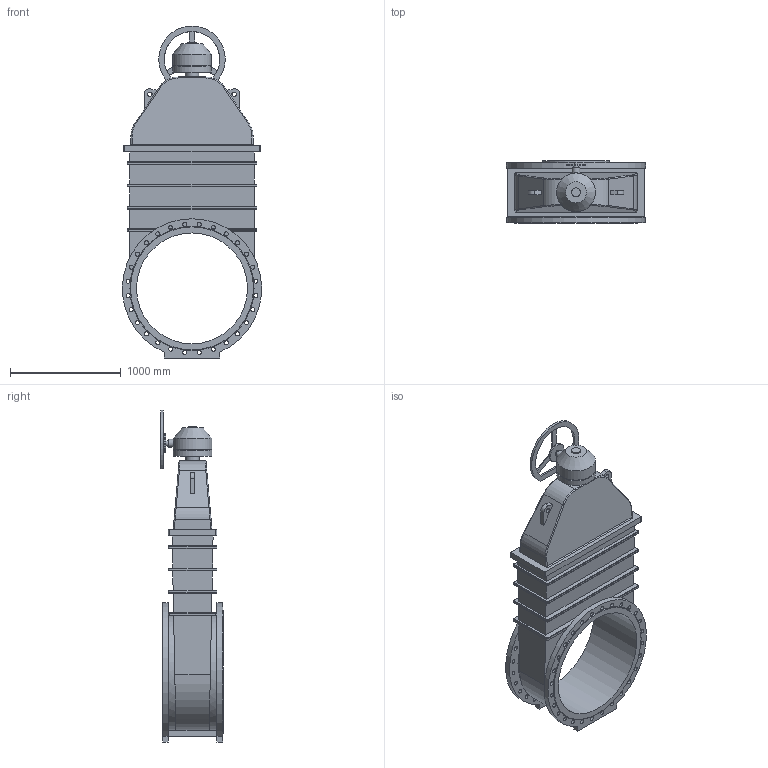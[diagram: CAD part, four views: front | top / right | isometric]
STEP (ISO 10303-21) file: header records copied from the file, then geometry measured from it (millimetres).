
FILE_DESCRIPTION(('STEP AP203'), '1');
FILE_NAME('Çàäâèæêà 47GV DN1000 PN10_L550 + ðåäóêòîð ñ ìàõîâèêîì', '', ('UNSPECIFIED'), ('UNSPECIFIED'), 'ASCON STEP Converter 1.6', 'ASCON Math Kernel', '');
FILE_SCHEMA(('CONFIG_CONTROL_DESIGN'));
Length unit declared in the file: millimetre
Bounding box: 1254.27 x 560 x 2992.5 mm (x, y, z)
Volume: 652389454.6 mm3; surface area: 11679946.9 mm2
Topology: 1 solids, 1 shells, 315 faces, 780 edges, 493 vertices
Faces by surface type: cylinder 153, plane 117, bspline 38, torus 4, cone 3
Full cylindrical faces by diameter (mm): 30 x1, 37 x56, 40 x2, 50 x1, 70 x1, 80 x1, 100 x1, 120 x1, 175 x1, 330 x1, 350 x2, 1000 x1
Entity records: 14712 total; most frequent: CARTESIAN_POINT 4874, DIRECTION 1447, ORIENTED_EDGE 1416, EDGE_CURVE 708, AXIS2_PLACEMENT_3D 556, EDGE_LOOP 537, VERTEX_POINT 493, FACE_BOUND 394
